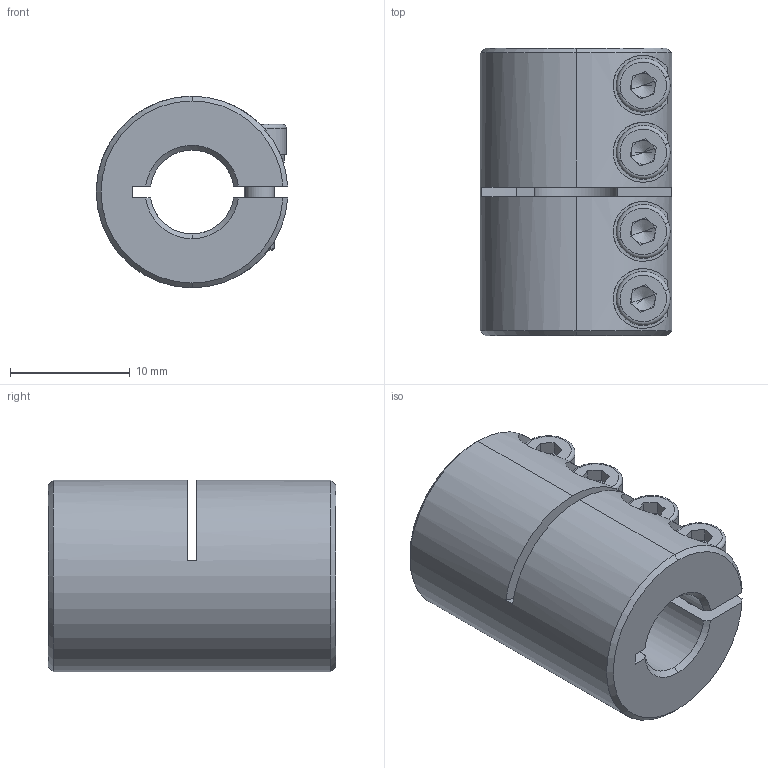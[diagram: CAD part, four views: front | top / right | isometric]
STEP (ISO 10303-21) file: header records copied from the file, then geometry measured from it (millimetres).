
FILE_DESCRIPTION (( 'STEP AP203' ), '1' );
FILE_NAME ('LL-B-D16L24-7-7.STEP', '2021-11-03T04:57:30', ( '' ), ( '' ), 'SwSTEP 2.0', 'SolidWorks 2018', '' );
FILE_SCHEMA (( 'CONFIG_CONTROL_DESIGN' ));
Length unit declared in the file: millimetre
Products named in the file (1): LL-B-D16L24-7-7
Bounding box: 15.98 x 24 x 16 mm (x, y, z)
Volume: 3622.7 mm3; surface area: 2922.8 mm2
Topology: 1 solids, 1 shells, 200 faces, 513 edges, 319 vertices
Faces by surface type: plane 90, cylinder 74, cone 28, torus 8
Entity records: 6481 total; most frequent: CARTESIAN_POINT 1493, DIRECTION 1074, ORIENTED_EDGE 1010, EDGE_CURVE 505, AXIS2_PLACEMENT_3D 420, VERTEX_POINT 319, VECTOR 234, LINE 234
